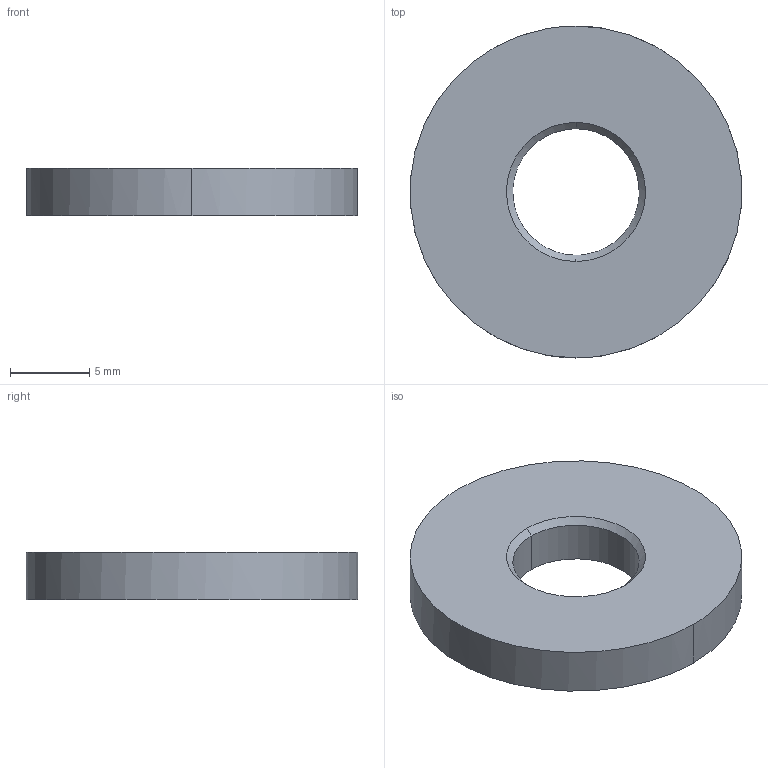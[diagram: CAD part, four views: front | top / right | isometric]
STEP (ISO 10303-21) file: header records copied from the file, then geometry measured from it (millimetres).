
FILE_DESCRIPTION (( 'STEP AP214' ), '1' );
FILE_NAME ('Soemer-SM71-M8 U-Scheibe.STEP', '2023-09-26T11:56:03', ( '' ), ( '' ), 'SwSTEP 2.0', 'SolidWorks 2019', '' );
FILE_SCHEMA (( 'AUTOMOTIVE_DESIGN' ));
Length unit declared in the file: millimetre
Products named in the file (2): Soemer-SM71-M8 U-Scheibe
Bounding box: 20.93 x 21 x 3 mm (x, y, z)
Volume: 886.2 mm3; surface area: 859.8 mm2
Topology: 1 solids, 1 shells, 8 faces, 16 edges, 10 vertices
Faces by surface type: bspline 6, plane 2
Entity records: 401 total; most frequent: CARTESIAN_POINT 218, ORIENTED_EDGE 32, EDGE_CURVE 16, DIRECTION 14, B_SPLINE_CURVE_WITH_KNOTS 10, EDGE_LOOP 10, VERTEX_POINT 10, ADVANCED_FACE 8
